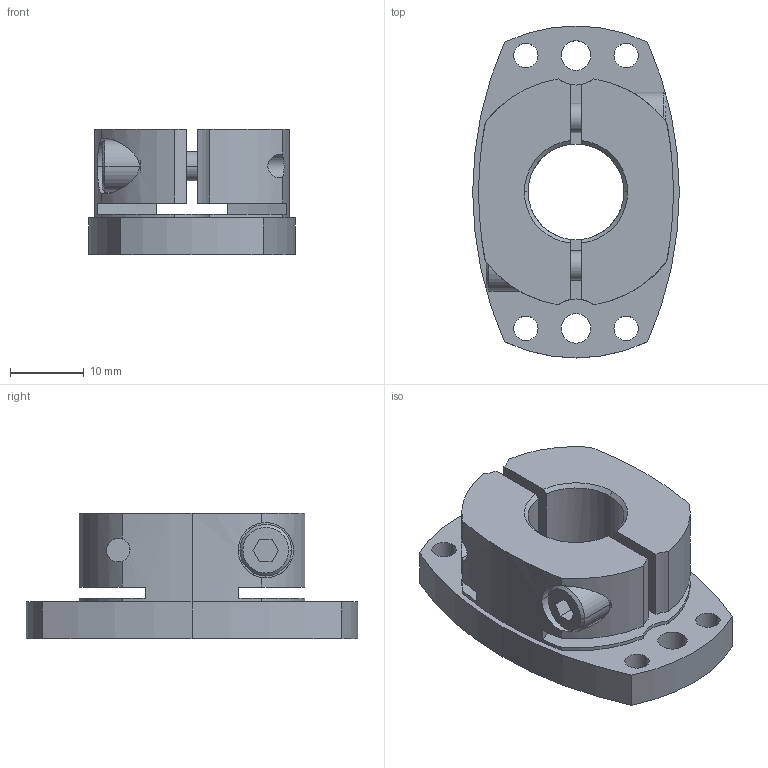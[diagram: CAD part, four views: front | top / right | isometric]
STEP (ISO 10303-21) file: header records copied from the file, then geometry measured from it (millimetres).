
FILE_DESCRIPTION((''),'2;1');
FILE_NAME('SHDB-45B-13.stp','2026-01-27T12:39:44',(''),(''),'AutoCAD STEP 2000i','AutoCAD 2000i',', , ');
FILE_SCHEMA(('CONFIG_CONTROL_DESIGN'));
Length unit declared in the file: millimetre
Products named in the file (2): SHDB-45B-10; 忣兜1
Assembly tree (1 placements, depth 2):
  SHDB-45B-10
    忣兜1
Bounding box: 28 x 45 x 17 mm (x, y, z)
Volume: 10193.7 mm3; surface area: 5973.2 mm2
Topology: 1 solids, 1 shells, 102 faces, 280 edges, 184 vertices
Faces by surface type: cylinder 58, plane 34, cone 10
Entity records: 3661 total; most frequent: CARTESIAN_POINT 834, DIRECTION 602, ORIENTED_EDGE 560, EDGE_CURVE 280, AXIS2_PLACEMENT_3D 238, VERTEX_POINT 184, CIRCLE 134, VECTOR 126
